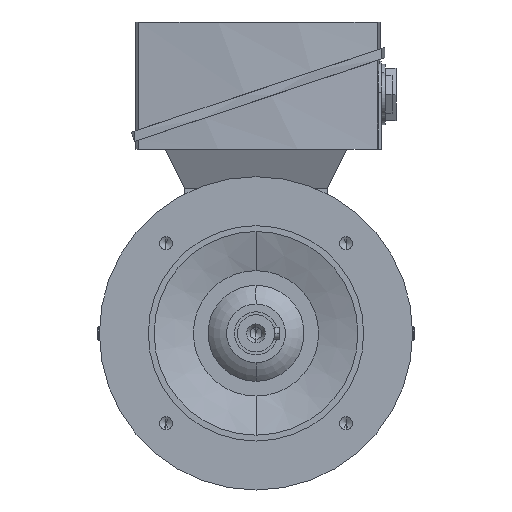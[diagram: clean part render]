
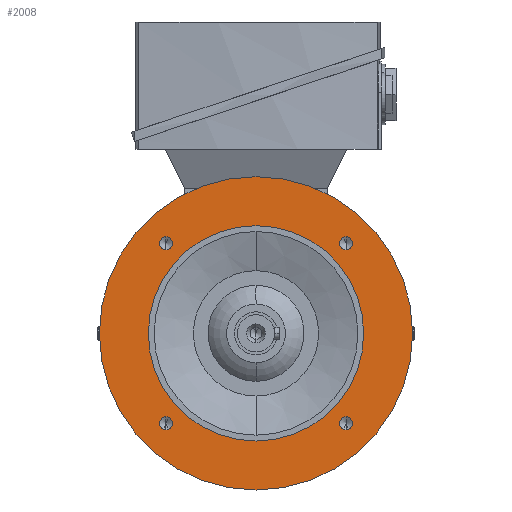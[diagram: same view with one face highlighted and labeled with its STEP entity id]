
A CAD part, left-side view. The second image highlights one B-rep face of the part: STEP entity #2008.
In plain terms, the highlighted planar face has unit normal (-1, 0, 0).
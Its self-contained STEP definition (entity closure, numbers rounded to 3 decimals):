
#2008=ADVANCED_FACE('',(#4052,#4053,#4054,#4055,#4056,#4057),#4058,.T.);
#4052=FACE_BOUND('',#6094,.T.);
#4053=FACE_BOUND('',#6095,.T.);
#4054=FACE_BOUND('',#6096,.T.);
#4055=FACE_BOUND('',#6097,.T.);
#4056=FACE_OUTER_BOUND('',#6098,.T.);
#4057=FACE_BOUND('',#6099,.T.);
#4058=PLANE('',#6100);
#6094=EDGE_LOOP('',(#12368,#12369));
#6095=EDGE_LOOP('',(#12370,#12371));
#6096=EDGE_LOOP('',(#12372,#12373));
#6097=EDGE_LOOP('',(#12374,#12375));
#6098=EDGE_LOOP('',(#12376,#12377));
#6099=EDGE_LOOP('',(#12378,#12379));
#6100=AXIS2_PLACEMENT_3D('',#12380,#12381,#12382);
#12368=ORIENTED_EDGE('',*,*,#14817,.T.);
#12369=ORIENTED_EDGE('',*,*,#12459,.T.);
#12370=ORIENTED_EDGE('',*,*,#14821,.T.);
#12371=ORIENTED_EDGE('',*,*,#12451,.T.);
#12372=ORIENTED_EDGE('',*,*,#14825,.T.);
#12373=ORIENTED_EDGE('',*,*,#12443,.T.);
#12374=ORIENTED_EDGE('',*,*,#14829,.T.);
#12375=ORIENTED_EDGE('',*,*,#12435,.T.);
#12376=ORIENTED_EDGE('',*,*,#12406,.F.);
#12377=ORIENTED_EDGE('',*,*,#14885,.F.);
#12378=ORIENTED_EDGE('',*,*,#12413,.T.);
#12379=ORIENTED_EDGE('',*,*,#14883,.T.);
#12380=CARTESIAN_POINT('',(-27.0,0.0,67.5));
#12381=DIRECTION('',(-1.0,-0.0,-0.0));
#12382=DIRECTION('',(0.0,0.0,-1.0));
#12406=EDGE_CURVE('',#14890,#14893,#14894,.T.);
#12413=EDGE_CURVE('',#14900,#14904,#14906,.T.);
#12435=EDGE_CURVE('',#14944,#14941,#14945,.T.);
#12443=EDGE_CURVE('',#14957,#14954,#14958,.T.);
#12451=EDGE_CURVE('',#14970,#14967,#14971,.T.);
#12459=EDGE_CURVE('',#14983,#14980,#14984,.T.);
#14817=EDGE_CURVE('',#14980,#14983,#18494,.T.);
#14821=EDGE_CURVE('',#14967,#14970,#18498,.T.);
#14825=EDGE_CURVE('',#14954,#14957,#18502,.T.);
#14829=EDGE_CURVE('',#14941,#14944,#18506,.T.);
#14883=EDGE_CURVE('',#14904,#14900,#18573,.T.);
#14885=EDGE_CURVE('',#14893,#14890,#18575,.T.);
#14890=VERTEX_POINT('',#18580);
#14893=VERTEX_POINT('',#18584);
#14894=CIRCLE('',#18585,80.0);
#14900=VERTEX_POINT('',#18592);
#14904=VERTEX_POINT('',#18597);
#14906=CIRCLE('',#18600,55.0);
#14941=VERTEX_POINT('',#18649);
#14944=VERTEX_POINT('',#18653);
#14945=CIRCLE('',#18654,3.325);
#14954=VERTEX_POINT('',#18666);
#14957=VERTEX_POINT('',#18670);
#14958=CIRCLE('',#18671,3.325);
#14967=VERTEX_POINT('',#18683);
#14970=VERTEX_POINT('',#18687);
#14971=CIRCLE('',#18688,3.325);
#14980=VERTEX_POINT('',#18700);
#14983=VERTEX_POINT('',#18704);
#14984=CIRCLE('',#18705,3.325);
#18494=CIRCLE('',#25473,3.325);
#18498=CIRCLE('',#25477,3.325);
#18502=CIRCLE('',#25481,3.325);
#18506=CIRCLE('',#25485,3.325);
#18573=CIRCLE('',#25615,55.0);
#18575=CIRCLE('',#25617,80.0);
#18580=CARTESIAN_POINT('',(-27.0,0.0,80.0));
#18584=CARTESIAN_POINT('',(-27.0,0.,-80.0));
#18585=AXIS2_PLACEMENT_3D('',#25622,#25623,#25624);
#18592=CARTESIAN_POINT('',(-27.0,0.0,55.0));
#18597=CARTESIAN_POINT('',(-27.0,0.,-55.0));
#18600=AXIS2_PLACEMENT_3D('',#25634,#25635,#25636);
#18649=CARTESIAN_POINT('',(-27.0,45.962,42.637));
#18653=CARTESIAN_POINT('',(-27.0,45.962,49.287));
#18654=AXIS2_PLACEMENT_3D('',#25670,#25671,#25672);
#18666=CARTESIAN_POINT('',(-27.0,45.962,-49.287));
#18670=CARTESIAN_POINT('',(-27.0,45.962,-42.637));
#18671=AXIS2_PLACEMENT_3D('',#25680,#25681,#25682);
#18683=CARTESIAN_POINT('',(-27.0,-45.962,-49.287));
#18687=CARTESIAN_POINT('',(-27.0,-45.962,-42.637));
#18688=AXIS2_PLACEMENT_3D('',#25690,#25691,#25692);
#18700=CARTESIAN_POINT('',(-27.0,-45.962,42.637));
#18704=CARTESIAN_POINT('',(-27.0,-45.962,49.287));
#18705=AXIS2_PLACEMENT_3D('',#25700,#25701,#25702);
#25473=AXIS2_PLACEMENT_3D('',#28178,#28179,#28180);
#25477=AXIS2_PLACEMENT_3D('',#28184,#28185,#28186);
#25481=AXIS2_PLACEMENT_3D('',#28190,#28191,#28192);
#25485=AXIS2_PLACEMENT_3D('',#28196,#28197,#28198);
#25615=AXIS2_PLACEMENT_3D('',#28247,#28248,#28249);
#25617=AXIS2_PLACEMENT_3D('',#28250,#28251,#28252);
#25622=CARTESIAN_POINT('',(-27.0,0.0,0.0));
#25623=DIRECTION('',(1.0,0.0,-0.0));
#25624=DIRECTION('',(0.0,0.0,1.0));
#25634=CARTESIAN_POINT('',(-27.0,0.0,0.0));
#25635=DIRECTION('',(1.0,0.0,-0.0));
#25636=DIRECTION('',(0.0,0.0,1.0));
#25670=CARTESIAN_POINT('',(-27.0,45.962,45.962));
#25671=DIRECTION('',(1.0,0.0,0.0));
#25672=DIRECTION('',(0.0,0.0,-1.0));
#25680=CARTESIAN_POINT('',(-27.0,45.962,-45.962));
#25681=DIRECTION('',(1.0,0.0,0.0));
#25682=DIRECTION('',(0.0,0.0,-1.0));
#25690=CARTESIAN_POINT('',(-27.0,-45.962,-45.962));
#25691=DIRECTION('',(1.0,0.0,0.0));
#25692=DIRECTION('',(0.0,0.0,-1.0));
#25700=CARTESIAN_POINT('',(-27.0,-45.962,45.962));
#25701=DIRECTION('',(1.0,0.0,0.0));
#25702=DIRECTION('',(0.0,0.0,-1.0));
#28178=CARTESIAN_POINT('',(-27.0,-45.962,45.962));
#28179=DIRECTION('',(1.0,0.0,0.0));
#28180=DIRECTION('',(0.0,0.0,-1.0));
#28184=CARTESIAN_POINT('',(-27.0,-45.962,-45.962));
#28185=DIRECTION('',(1.0,0.0,0.0));
#28186=DIRECTION('',(0.0,0.0,-1.0));
#28190=CARTESIAN_POINT('',(-27.0,45.962,-45.962));
#28191=DIRECTION('',(1.0,0.0,0.0));
#28192=DIRECTION('',(0.0,0.0,-1.0));
#28196=CARTESIAN_POINT('',(-27.0,45.962,45.962));
#28197=DIRECTION('',(1.0,0.0,0.0));
#28198=DIRECTION('',(0.0,0.0,-1.0));
#28247=CARTESIAN_POINT('',(-27.0,0.0,0.0));
#28248=DIRECTION('',(1.0,0.0,-0.0));
#28249=DIRECTION('',(0.0,0.0,1.0));
#28250=CARTESIAN_POINT('',(-27.0,0.0,0.0));
#28251=DIRECTION('',(1.0,0.0,-0.0));
#28252=DIRECTION('',(0.0,0.0,1.0));
